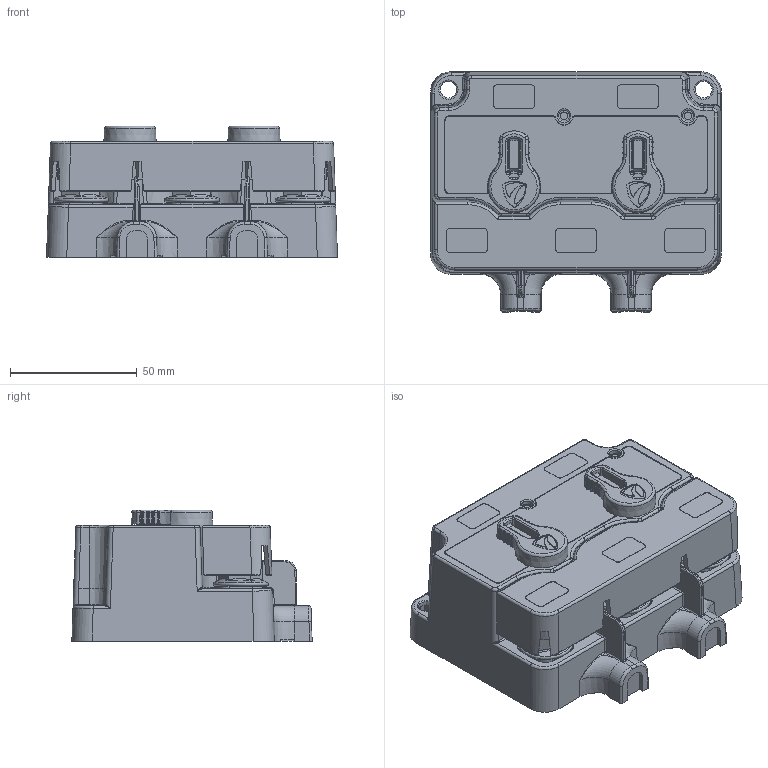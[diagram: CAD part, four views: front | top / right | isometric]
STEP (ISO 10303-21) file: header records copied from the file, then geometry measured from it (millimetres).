
FILE_DESCRIPTION(/* description */ ('STEP AP242','CAx-IF Rec.Pracs.---Representation and Presentation of Product Manufacturing Information (PMI)---4.0---2014-10-13','CAx-IF Rec.Pracs.---3D Tessellated Geometry---0.4---2014-09-14','2;1'),/* implementation_level */ '2;1');
FILE_NAME(/* name */ '6197e52748cc611c79d34adb',/* time_stamp */ '2021-11-19T17:55:56+00:00',/* author */ (''),/* organization */ (''),/* preprocessor_version */ 'ST-DEVELOPER v18.1',/* originating_system */ ' ',/* authorisation */ ' ');
FILE_SCHEMA (('AP242_MANAGED_MODEL_BASED_3D_ENGINEERING_MIM_LF { 1 0 10303 442 1 1 4 }'));
Products named in the file (5): M10 Flange Nut; 2X XD Case - Knob - Knob; 2x XD Relay Term Cvr
Bounding box: 115 x 94.99 x 52.05 mm (x, y, z)
Volume: 356301.8 mm3; surface area: 75910.4 mm2
Topology: 5 solids, 15 shells, 2630 faces, 6982 edges, 4384 vertices
Faces by surface type: plane 988, cone 529, bspline 487, cylinder 465, torus 122, sphere 39
Full cylindrical faces by diameter (mm): 3 x2, 8.376 x3, 10 x3
Entity records: 85683 total; most frequent: CARTESIAN_POINT 23660, ORIENTED_EDGE 13752, DIRECTION 12006, EDGE_CURVE 6876, AXIS2_PLACEMENT_3D 4508, VERTEX_POINT 4368, LINE 2990, VECTOR 2990
